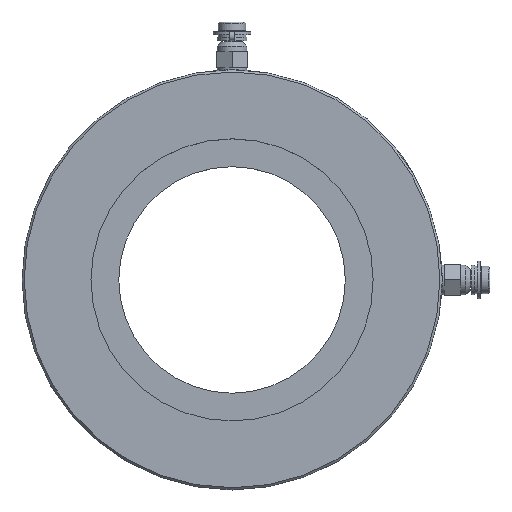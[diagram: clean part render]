
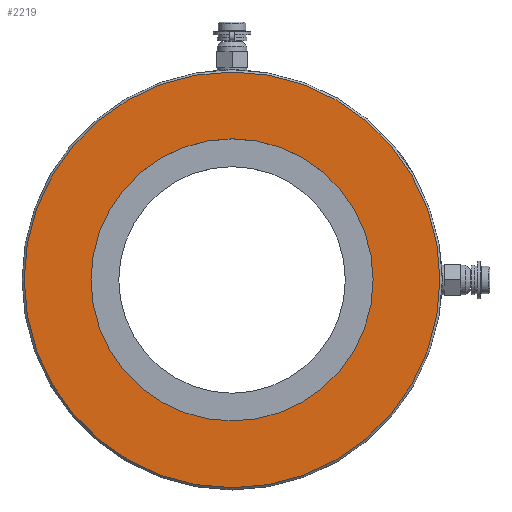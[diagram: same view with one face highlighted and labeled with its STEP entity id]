
A CAD part, top view. The second image highlights one B-rep face of the part: STEP entity #2219.
In plain terms, the highlighted planar face has unit normal (0, 0, 1).
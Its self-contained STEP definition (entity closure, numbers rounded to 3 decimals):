
#2185=CARTESIAN_POINT('',(96.,0.,9.0));
#2186=VERTEX_POINT('',#2185);
#2187=CARTESIAN_POINT('',(0.0,0.0,9.0));
#2188=DIRECTION('',(0.0,0.0,-1.0));
#2189=DIRECTION('',(-1.0,0.0,0.0));
#2190=AXIS2_PLACEMENT_3D('',#2187,#2188,#2189);
#2191=CIRCLE('',#2190,96.);
#2192=EDGE_CURVE('',#2186,#2186,#2191,.T.);
#2200=CARTESIAN_POINT('',(0.0,0.0,9.0));
#2201=DIRECTION('',(0.0,0.0,-1.0));
#2202=DIRECTION('',(-1.0,0.0,0.0));
#2203=AXIS2_PLACEMENT_3D('',#2200,#2201,#2202);
#2204=PLANE('',#2203);
#2205=ORIENTED_EDGE('',*,*,#2192,.F.);
#2206=EDGE_LOOP('',(#2205));
#2207=FACE_OUTER_BOUND('',#2206,.T.);
#2208=CARTESIAN_POINT('',(65.15,0.,9.0));
#2209=VERTEX_POINT('',#2208);
#2210=CARTESIAN_POINT('',(0.0,0.0,9.0));
#2211=DIRECTION('',(0.0,0.0,-1.0));
#2212=DIRECTION('',(-1.0,0.0,0.0));
#2213=AXIS2_PLACEMENT_3D('',#2210,#2211,#2212);
#2214=CIRCLE('',#2213,65.15);
#2215=EDGE_CURVE('',#2209,#2209,#2214,.T.);
#2216=ORIENTED_EDGE('',*,*,#2215,.T.);
#2217=EDGE_LOOP('',(#2216));
#2218=FACE_BOUND('',#2217,.T.);
#2219=ADVANCED_FACE('',(#2207,#2218),#2204,.F.);
